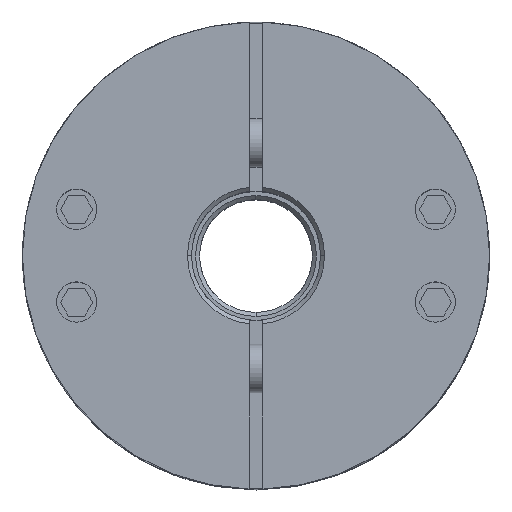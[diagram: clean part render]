
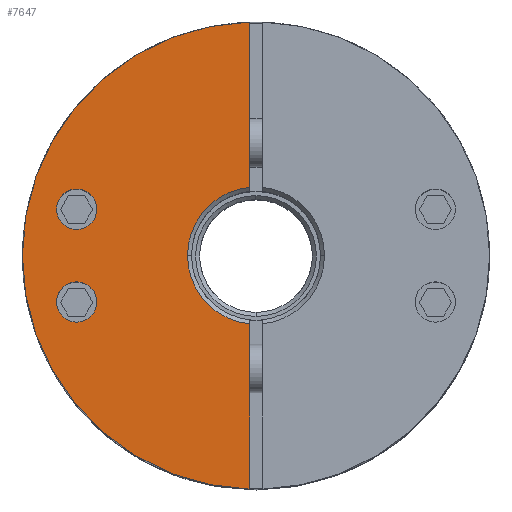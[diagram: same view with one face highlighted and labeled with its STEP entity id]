
A CAD part, top view. The second image highlights one B-rep face of the part: STEP entity #7647.
In plain terms, the highlighted planar face has unit normal (0, 0, 1).
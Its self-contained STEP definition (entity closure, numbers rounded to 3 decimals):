
#4253=CARTESIAN_POINT('',(-19.767,-5.759,27.125));
#4254=VERTEX_POINT('',#4253);
#4263=CARTESIAN_POINT('',(-24.767,-5.759,27.125));
#4264=VERTEX_POINT('',#4263);
#4265=CARTESIAN_POINT('',(-22.267,-5.759,27.125));
#4266=DIRECTION('',(0.0,0.0,-1.0));
#4267=DIRECTION('',(1.0,0.0,0.0));
#4268=AXIS2_PLACEMENT_3D('',#4265,#4266,#4267);
#4269=CIRCLE('',#4268,2.5);
#4270=EDGE_CURVE('',#4264,#4254,#4269,.T.);
#4379=CARTESIAN_POINT('',(-19.767,5.759,27.125));
#4380=VERTEX_POINT('',#4379);
#4389=CARTESIAN_POINT('',(-24.767,5.759,27.125));
#4390=VERTEX_POINT('',#4389);
#4391=CARTESIAN_POINT('',(-22.267,5.759,27.125));
#4392=DIRECTION('',(0.0,0.0,-1.0));
#4393=DIRECTION('',(1.0,0.0,0.0));
#4394=AXIS2_PLACEMENT_3D('',#4391,#4392,#4393);
#4395=CIRCLE('',#4394,2.5);
#4396=EDGE_CURVE('',#4390,#4380,#4395,.T.);
#4608=CARTESIAN_POINT('',(-29.0,0.,27.125));
#4609=VERTEX_POINT('',#4608);
#4616=CARTESIAN_POINT('',(-0.75,28.99,27.125));
#4617=VERTEX_POINT('',#4616);
#4618=CARTESIAN_POINT('',(0.0,0.0,27.125));
#4619=DIRECTION('',(0.0,0.0,-1.0));
#4620=DIRECTION('',(1.0,0.0,0.0));
#4621=AXIS2_PLACEMENT_3D('',#4618,#4619,#4620);
#4622=CIRCLE('',#4621,29.0);
#4623=EDGE_CURVE('',#4609,#4617,#4622,.T.);
#4974=CARTESIAN_POINT('',(-8.5,0.,27.125));
#4975=VERTEX_POINT('',#4974);
#4991=CARTESIAN_POINT('',(-0.75,8.467,27.125));
#4992=VERTEX_POINT('',#4991);
#5006=CARTESIAN_POINT('',(0.0,0.0,27.125));
#5007=DIRECTION('',(0.0,0.0,1.0));
#5008=DIRECTION('',(-1.0,0.0,0.0));
#5009=AXIS2_PLACEMENT_3D('',#5006,#5007,#5008);
#5010=CIRCLE('',#5009,8.5);
#5011=EDGE_CURVE('',#4992,#4975,#5010,.T.);
#7400=CARTESIAN_POINT('',(-0.75,-8.467,27.125));
#7401=VERTEX_POINT('',#7400);
#7402=CARTESIAN_POINT('',(0.0,0.0,27.125));
#7403=DIRECTION('',(0.0,0.0,1.0));
#7404=DIRECTION('',(-1.0,0.0,0.0));
#7405=AXIS2_PLACEMENT_3D('',#7402,#7403,#7404);
#7406=CIRCLE('',#7405,8.5);
#7407=EDGE_CURVE('',#4975,#7401,#7406,.T.);
#7440=CARTESIAN_POINT('',(-0.75,8.467,27.125));
#7441=DIRECTION('',(0.0,1.0,0.0));
#7442=VECTOR('',#7441,20.523);
#7443=LINE('',#7440,#7442);
#7444=EDGE_CURVE('',#4992,#4617,#7443,.T.);
#7554=CARTESIAN_POINT('',(-0.75,-28.99,27.125));
#7555=VERTEX_POINT('',#7554);
#7556=CARTESIAN_POINT('',(-0.75,-28.99,27.125));
#7557=DIRECTION('',(0.0,1.0,0.0));
#7558=VECTOR('',#7557,20.523);
#7559=LINE('',#7556,#7558);
#7560=EDGE_CURVE('',#7555,#7401,#7559,.T.);
#7608=CARTESIAN_POINT('',(2.636,0.,27.125));
#7609=DIRECTION('',(0.0,0.0,1.0));
#7610=DIRECTION('',(1.0,0.0,0.0));
#7611=AXIS2_PLACEMENT_3D('',#7608,#7609,#7610);
#7612=PLANE('',#7611);
#7613=ORIENTED_EDGE('',*,*,#5011,.F.);
#7614=ORIENTED_EDGE('',*,*,#7444,.T.);
#7615=ORIENTED_EDGE('',*,*,#4623,.F.);
#7616=CARTESIAN_POINT('',(0.0,0.0,27.125));
#7617=DIRECTION('',(0.0,0.0,-1.0));
#7618=DIRECTION('',(1.0,0.0,0.0));
#7619=AXIS2_PLACEMENT_3D('',#7616,#7617,#7618);
#7620=CIRCLE('',#7619,29.0);
#7621=EDGE_CURVE('',#7555,#4609,#7620,.T.);
#7622=ORIENTED_EDGE('',*,*,#7621,.F.);
#7623=ORIENTED_EDGE('',*,*,#7560,.T.);
#7624=ORIENTED_EDGE('',*,*,#7407,.F.);
#7625=EDGE_LOOP('',(#7613,#7614,#7615,#7622,#7623,#7624));
#7626=FACE_OUTER_BOUND('',#7625,.T.);
#7627=CARTESIAN_POINT('',(-22.267,-5.759,27.125));
#7628=DIRECTION('',(0.0,0.0,-1.0));
#7629=DIRECTION('',(1.0,0.0,0.0));
#7630=AXIS2_PLACEMENT_3D('',#7627,#7628,#7629);
#7631=CIRCLE('',#7630,2.5);
#7632=EDGE_CURVE('',#4254,#4264,#7631,.T.);
#7633=ORIENTED_EDGE('',*,*,#7632,.T.);
#7634=ORIENTED_EDGE('',*,*,#4270,.T.);
#7635=EDGE_LOOP('',(#7633,#7634));
#7636=FACE_BOUND('',#7635,.T.);
#7637=CARTESIAN_POINT('',(-22.267,5.759,27.125));
#7638=DIRECTION('',(0.0,0.0,-1.0));
#7639=DIRECTION('',(1.0,0.0,0.0));
#7640=AXIS2_PLACEMENT_3D('',#7637,#7638,#7639);
#7641=CIRCLE('',#7640,2.5);
#7642=EDGE_CURVE('',#4380,#4390,#7641,.T.);
#7643=ORIENTED_EDGE('',*,*,#7642,.T.);
#7644=ORIENTED_EDGE('',*,*,#4396,.T.);
#7645=EDGE_LOOP('',(#7643,#7644));
#7646=FACE_BOUND('',#7645,.T.);
#7647=ADVANCED_FACE('',(#7626,#7636,#7646),#7612,.T.);
